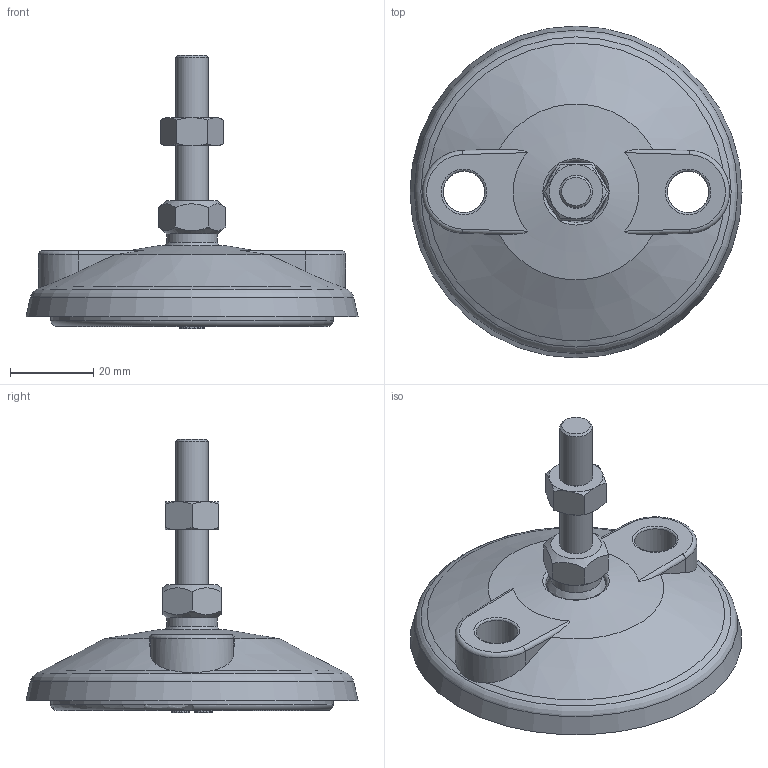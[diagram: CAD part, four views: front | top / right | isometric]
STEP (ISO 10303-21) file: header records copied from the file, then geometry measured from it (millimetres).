
FILE_DESCRIPTION(/* description */ (''),/* implementation_level */ '2;1');
FILE_NAME(/* name */ 'Articulating Anti-slip Levelling Foot - Nylon 80mm - M8 - 35mm.step',/* time_stamp */ '2025-10-14T15:53:24+03:00',/* author */ (''),/* organization */ (''),/* preprocessor_version */ 'ST-DEVELOPER v20.1',/* originating_system */ 'Autodesk Translation Framework v14.17.0.0',/* authorisation */ '');
FILE_SCHEMA (('AUTOMOTIVE_DESIGN { 1 0 10303 214 3 1 1 }'));
Length unit declared in the file: millimetre
Products named in the file (7): Articulating Anti-slip Levelling Foot - Nylon 80mm - M8 - 35mm; Articulating Levelling Foot Stud - M8 - 35mm; hex nut style 1_am_B18.2.4.1M - Hex nut, Style 1,  M8 x 1.25 --D-N; Articulating Levelling Foot Stud - M8 - 35mm_1; 340-010BA-01_ASM; 340-0101B-01; 340-1003B-01
Assembly tree (6 placements, depth 3):
  Articulating Anti-slip Levelling Foot - Nylon 80mm - M8 - 35mm
    Articulating Levelling Foot Stud - M8 - 35mm
      hex nut style 1_am_B18.2.4.1M - Hex nut, Style 1,  M8 x 1.25 --D-N
      Articulating Levelling Foot Stud - M8 - 35mm_1
    340-010BA-01_ASM
      340-0101B-01
      340-1003B-01
Bounding box: 80 x 80 x 65.82 mm (x, y, z)
Volume: 58243.9 mm3; surface area: 31722.9 mm2
Topology: 4 solids, 4 shells, 369 faces, 1053 edges, 688 vertices
Faces by surface type: plane 246, cylinder 74, cone 40, torus 7, bspline 1, sphere 1
Full cylindrical faces by diameter (mm): 4 x2, 6.779 x1, 7 x2, 7.866 x1, 8 x1, 10 x2, 11 x2, 12.1 x1, 12.166 x1, 14.7 x2, 15 x1, 16 x1, 40 x1, 68 x1, 68.8 x1
Entity records: 12954 total; most frequent: CARTESIAN_POINT 3193, ORIENTED_EDGE 2102, DIRECTION 1948, EDGE_CURVE 1051, VERTEX_POINT 688, AXIS2_PLACEMENT_3D 668, LINE 612, VECTOR 612
